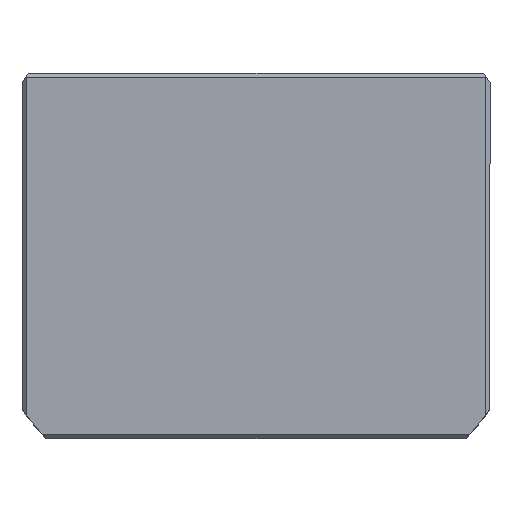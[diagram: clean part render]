
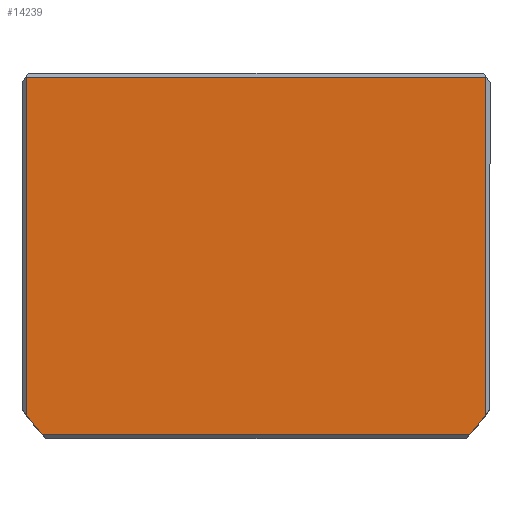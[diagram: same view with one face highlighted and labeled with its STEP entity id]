
A CAD part, top view. The second image highlights one B-rep face of the part: STEP entity #14239.
In plain terms, the highlighted planar face has unit normal (0, 0, 1) as drawn and (0, 0, -1) by its records, which use the part's own axes.
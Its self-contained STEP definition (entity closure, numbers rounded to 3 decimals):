
#183 = EDGE_CURVE ( 'NONE', #18112, #5913, #12323, .T. ) ;
#311 = VECTOR ( 'NONE', #7526, 1000. ) ;
#622 = CARTESIAN_POINT ( 'NONE',  ( 56., -43.5, 0. ) ) ;
#1729 = DIRECTION ( 'NONE',  ( 0., 0., 1. ) ) ;
#1918 = ORIENTED_EDGE ( 'NONE', *, *, #183, .T. ) ;
#2615 = VECTOR ( 'NONE', #23188, 1000. ) ;
#2682 = EDGE_CURVE ( 'NONE', #23169, #17758, #3174, .T. ) ;
#2759 = ORIENTED_EDGE ( 'NONE', *, *, #2682, .T. ) ;
#2999 = EDGE_CURVE ( 'NONE', #5913, #9567, #19579, .T. ) ;
#3174 = LINE ( 'NONE', #22088, #2615 ) ;
#3407 = CARTESIAN_POINT ( 'NONE',  ( 0., 0., 0. ) ) ;
#3913 = ORIENTED_EDGE ( 'NONE', *, *, #18666, .T. ) ;
#4454 = ORIENTED_EDGE ( 'NONE', *, *, #2999, .T. ) ;
#4693 = DIRECTION ( 'NONE',  ( 0., 0., 1. ) ) ;
#4774 = CARTESIAN_POINT ( 'NONE',  ( -56., 38.661, 0. ) ) ;
#5568 = LINE ( 'NONE', #10905, #18895 ) ;
#5913 = VERTEX_POINT ( 'NONE', #622 ) ;
#6674 = CIRCLE ( 'NONE', #19078, 69.5 ) ;
#6864 = VECTOR ( 'NONE', #8542, 1000. ) ;
#7526 = DIRECTION ( 'NONE',  ( -1., 0., 0. ) ) ;
#8404 = CARTESIAN_POINT ( 'NONE',  ( 0., -43.5, 0. ) ) ;
#8542 = DIRECTION ( 'NONE',  ( 0., -1., 0. ) ) ;
#8546 = CARTESIAN_POINT ( 'NONE',  ( 56., 0., 0. ) ) ;
#9567 = VERTEX_POINT ( 'NONE', #17081 ) ;
#9845 = VERTEX_POINT ( 'NONE', #4774 ) ;
#10472 = EDGE_CURVE ( 'NONE', #18112, #17758, #13016, .T. ) ;
#10732 = DIRECTION ( 'NONE',  ( 0., 0., 1. ) ) ;
#10905 = CARTESIAN_POINT ( 'NONE',  ( -56., 0., 0. ) ) ;
#11681 = EDGE_CURVE ( 'NONE', #23169, #9845, #6674, .T. ) ;
#12323 = LINE ( 'NONE', #8546, #6864 ) ;
#12573 = CARTESIAN_POINT ( 'NONE',  ( 0., -2.5, 0. ) ) ;
#13016 = CIRCLE ( 'NONE', #19987, 69.5 ) ;
#13266 = ORIENTED_EDGE ( 'NONE', *, *, #10472, .F. ) ;
#14239 = ADVANCED_FACE ( 'NONE', ( #17621 ), #21592, .F. ) ;
#14384 = DIRECTION ( 'NONE',  ( 1., 0., 0. ) ) ;
#15537 = CARTESIAN_POINT ( 'NONE',  ( 0., -2.5, 0. ) ) ;
#16461 = CARTESIAN_POINT ( 'NONE',  ( 52.098, 43.5, 0. ) ) ;
#17081 = CARTESIAN_POINT ( 'NONE',  ( -56., -43.5, 0. ) ) ;
#17192 = ORIENTED_EDGE ( 'NONE', *, *, #11681, .F. ) ;
#17380 = DIRECTION ( 'NONE',  ( 1., 0., 0. ) ) ;
#17394 = CARTESIAN_POINT ( 'NONE',  ( 56., 38.661, 0. ) ) ;
#17621 = FACE_OUTER_BOUND ( 'NONE', #23433, .T. ) ;
#17758 = VERTEX_POINT ( 'NONE', #16461 ) ;
#18112 = VERTEX_POINT ( 'NONE', #17394 ) ;
#18666 = EDGE_CURVE ( 'NONE', #9567, #9845, #5568, .T. ) ;
#18895 = VECTOR ( 'NONE', #21770, 1000. ) ;
#19078 = AXIS2_PLACEMENT_3D ( 'NONE', #12573, #1729, #14384 ) ;
#19579 = LINE ( 'NONE', #8404, #311 ) ;
#19987 = AXIS2_PLACEMENT_3D ( 'NONE', #15537, #4693, #17380 ) ;
#21592 = PLANE ( 'NONE',  #22933 ) ;
#21770 = DIRECTION ( 'NONE',  ( 0., 1., 0. ) ) ;
#22088 = CARTESIAN_POINT ( 'NONE',  ( 0., 43.5, 0. ) ) ;
#22538 = CARTESIAN_POINT ( 'NONE',  ( -52.098, 43.5, 0. ) ) ;
#22933 = AXIS2_PLACEMENT_3D ( 'NONE', #3407, #10732, #23419 ) ;
#23169 = VERTEX_POINT ( 'NONE', #22538 ) ;
#23188 = DIRECTION ( 'NONE',  ( 1., 0., 0. ) ) ;
#23419 = DIRECTION ( 'NONE',  ( 1., 0., 0. ) ) ;
#23433 = EDGE_LOOP ( 'NONE', ( #13266, #1918, #4454, #3913, #17192, #2759 ) ) ;
